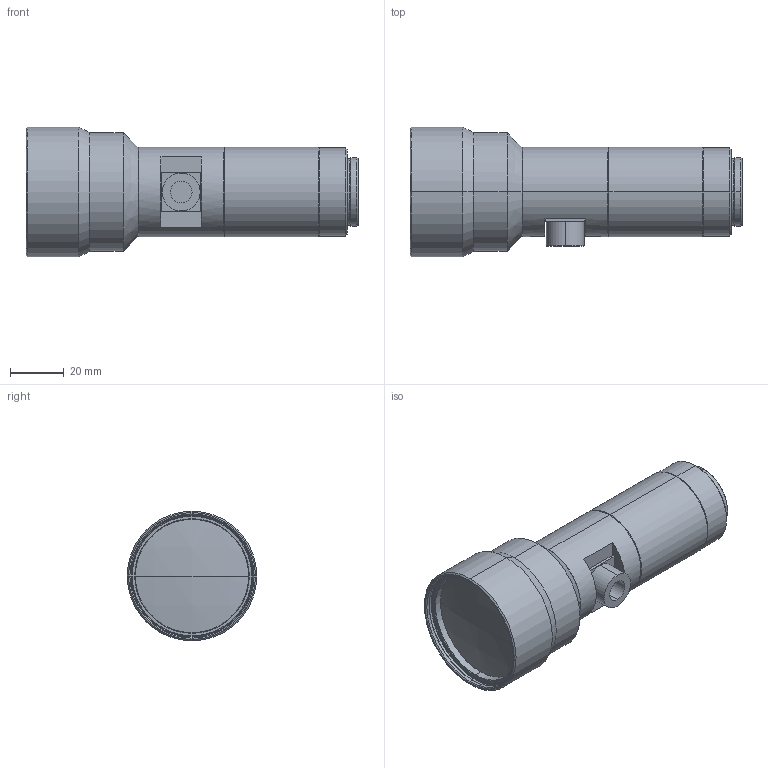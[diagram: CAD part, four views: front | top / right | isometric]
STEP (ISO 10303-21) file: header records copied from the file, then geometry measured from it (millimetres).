
FILE_DESCRIPTION (( 'STEP AP203' ), '1' );
FILE_NAME ('VS-TCM03-150CO.STEP', '2017-03-23T08:18:09', ( 'miura_vst' ), ( '' ), 'SwSTEP 2.0', 'SolidWorks 2017', '' );
FILE_SCHEMA (( 'CONFIG_CONTROL_DESIGN' ));
Length unit declared in the file: millimetre
Products named in the file (1): VS-TCM03-150CO
Bounding box: 122.97 x 48 x 48 mm (x, y, z)
Volume: 124391.9 mm3; surface area: 19871.3 mm2
Topology: 1 solids, 1 shells, 103 faces, 208 edges, 122 vertices
Faces by surface type: cone 46, cylinder 32, plane 21, sphere 4
Entity records: 2753 total; most frequent: DIRECTION 530, CARTESIAN_POINT 434, ORIENTED_EDGE 416, AXIS2_PLACEMENT_3D 218, EDGE_CURVE 208, VERTEX_POINT 122, EDGE_LOOP 118, CIRCLE 114
